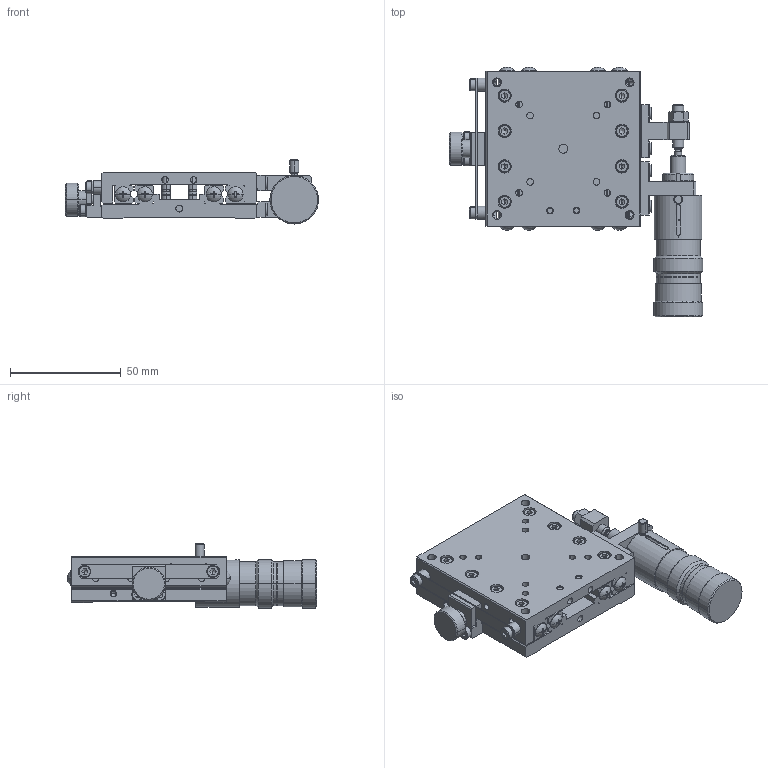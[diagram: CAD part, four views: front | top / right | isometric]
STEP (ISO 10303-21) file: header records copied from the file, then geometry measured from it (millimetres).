
FILE_DESCRIPTION (( 'STEP AP214' ), '1' );
FILE_NAME ('XM07F-S3Z-R-CL.STEP', '2009-05-11T06:19:23', ( ' ' ), ( ' ' ), 'SwSTEP 2.0', 'SolidWorks 2008', '' );
FILE_SCHEMA (( 'AUTOMOTIVE_DESIGN' ));
Length unit declared in the file: millimetre
Products named in the file (3): XM07F-S3Z-R-CL; 001490-1023(3D); 001490-1011(3D)
Assembly tree (2 placements, depth 2):
  XM07F-S3Z-R-CL
    001490-1023(3D)
    001490-1011(3D)
Bounding box: 114.5 x 112.87 x 29 mm (x, y, z)
Volume: 109598.6 mm3; surface area: 52449.3 mm2
Topology: 2 solids, 45 shells, 1886 faces, 4477 edges, 2676 vertices
Faces by surface type: plane 889, cylinder 579, cone 384, sphere 18, torus 16
Entity records: 54578 total; most frequent: CARTESIAN_POINT 10362, DIRECTION 9772, ORIENTED_EDGE 8766, EDGE_CURVE 4383, AXIS2_PLACEMENT_3D 3717, VERTEX_POINT 2676, VECTOR 2338, LINE 2338
